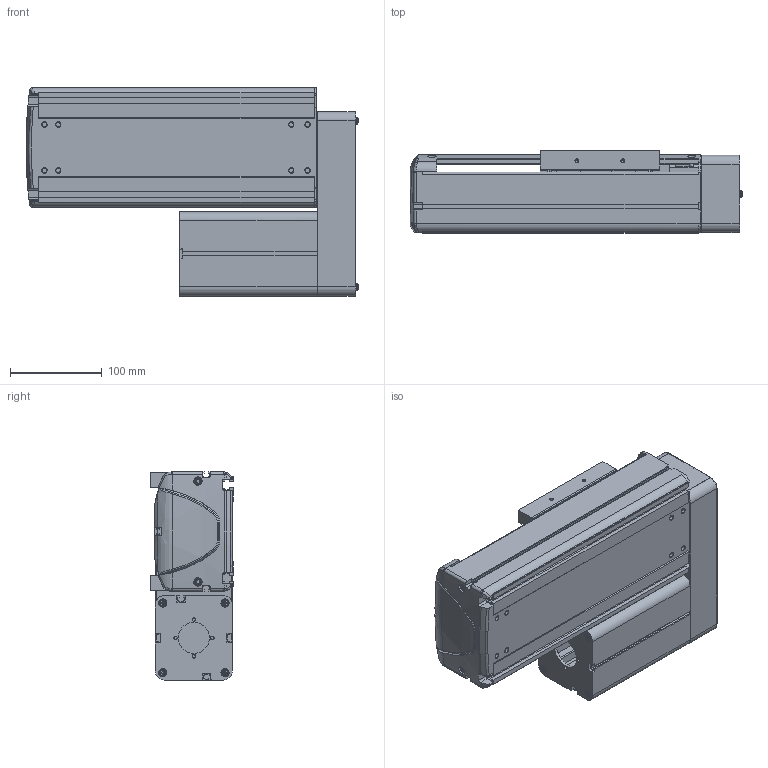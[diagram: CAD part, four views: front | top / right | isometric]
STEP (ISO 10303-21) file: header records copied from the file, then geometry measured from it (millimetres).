
FILE_DESCRIPTION((''),'2;1');
FILE_NAME('BE30E-UL-M_N-10_IGS_PRT','2017-06-17T',(' '),(''),'PRO/ENGINEER BY PARAMETRIC TECHNOLOGY CORPORATION, 2015030','PRO/ENGINEER BY PARAMETRIC TECHNOLOGY CORPORATION, 2015030','');
FILE_SCHEMA(('CONFIG_CONTROL_DESIGN'));
Length unit declared in the file: millimetre
Products named in the file (1): BE30E-UL-M_N-10_IGS_PRT
Bounding box: 361.9 x 89.8 x 227 mm (x, y, z)
Volume: 1595326.8 mm3; surface area: 735726.5 mm2
Topology: 2 solids, 98 shells, 1921 faces, 5118 edges, 3317 vertices
Faces by surface type: plane 980, cylinder 745, cone 103, torus 39, bspline 30, sphere 24
Entity records: 61596 total; most frequent: CARTESIAN_POINT 12924, DIRECTION 10301, ORIENTED_EDGE 9800, EDGE_CURVE 5080, AXIS2_PLACEMENT_3D 3590, VERTEX_POINT 3317, VECTOR 3121, LINE 3121
